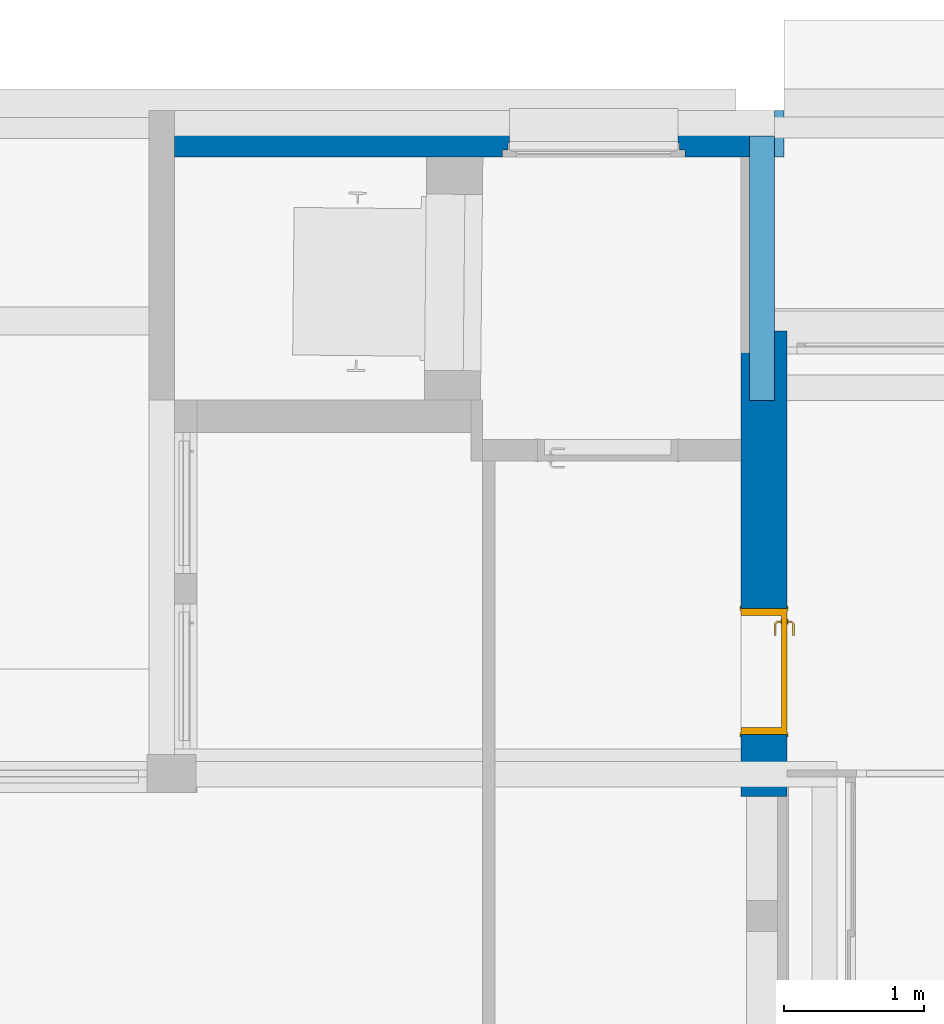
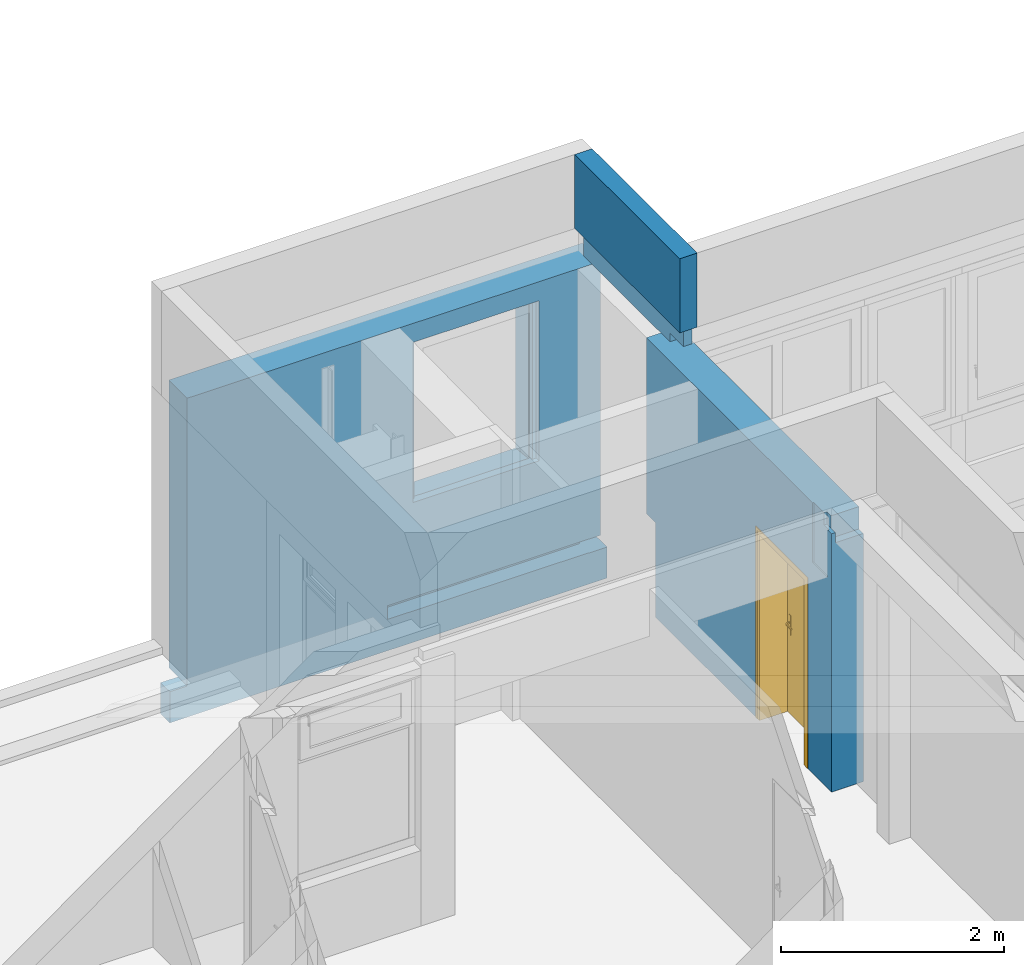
# One storey, part 35 of 49: 3 walls, 1 door, 1 opening.
"""IFC4 building model written with IfcOpenShell, lengths in metres."""

from ifc_helpers import new_model, entity, si_unit, converted_unit, derived_unit, direction, frame, origin, place, context, subcontext, project, spatial, indexed_curve, outline, extrude, polygons, source, transform, mapped, material, material_list, layer, layer_set, constituent, constituent_set, type_object, type_shapes, element, fill, save


model = new_model("IFC4")

# Units and contexts
model_context = context("Model", 3, precision=1e-05, world=origin(), true_north=direction((6.12303176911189e-17, 1.0)))
body_context = subcontext(model_context, "Body", "Model", "MODEL_VIEW")
ifc_project = project(units=[si_unit("LENGTHUNIT", "METRE"), si_unit("AREAUNIT", "SQUARE_METRE"), si_unit("VOLUMEUNIT", "CUBIC_METRE"), converted_unit("PLANEANGLEUNIT", "DEGREE", entity("IfcRatioMeasure", 0.0174532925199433), si_unit("PLANEANGLEUNIT", "RADIAN"), dimensions=[0, 0, 0, 0, 0, 0, 0]), si_unit("MASSUNIT", "GRAM", prefix="KILO"), derived_unit("MASSDENSITYUNIT", [(si_unit("MASSUNIT", "GRAM", prefix="KILO"), 1), (si_unit("LENGTHUNIT", "METRE"), -3)]), derived_unit("MOMENTOFINERTIAUNIT", [(si_unit("LENGTHUNIT", "METRE"), 4)]), si_unit("TIMEUNIT", "SECOND"), si_unit("FREQUENCYUNIT", "HERTZ"), si_unit("THERMODYNAMICTEMPERATUREUNIT", "DEGREE_CELSIUS"), derived_unit("THERMALTRANSMITTANCEUNIT", [(si_unit("MASSUNIT", "GRAM", prefix="KILO"), 1), (si_unit("THERMODYNAMICTEMPERATUREUNIT", "KELVIN"), -1), (si_unit("TIMEUNIT", "SECOND"), -3)]), derived_unit("VOLUMETRICFLOWRATEUNIT", [(si_unit("LENGTHUNIT", "METRE"), 3), (si_unit("TIMEUNIT", "SECOND"), -1)]), si_unit("ELECTRICCURRENTUNIT", "AMPERE"), si_unit("ELECTRICVOLTAGEUNIT", "VOLT"), si_unit("POWERUNIT", "WATT"), si_unit("FORCEUNIT", "NEWTON", prefix="KILO"), si_unit("ILLUMINANCEUNIT", "LUX"), si_unit("LUMINOUSFLUXUNIT", "LUMEN"), si_unit("LUMINOUSINTENSITYUNIT", "CANDELA"), derived_unit("USERDEFINED", [(si_unit("MASSUNIT", "GRAM", prefix="KILO"), -1), (si_unit("LENGTHUNIT", "METRE"), -2), (si_unit("TIMEUNIT", "SECOND"), 3), (si_unit("LUMINOUSFLUXUNIT", "LUMEN"), 1)]), derived_unit("LINEARVELOCITYUNIT", [(si_unit("LENGTHUNIT", "METRE"), 1), (si_unit("TIMEUNIT", "SECOND"), -1)]), si_unit("PRESSUREUNIT", "PASCAL"), derived_unit("USERDEFINED", [(si_unit("LENGTHUNIT", "METRE"), -2), (si_unit("MASSUNIT", "GRAM", prefix="KILO"), 1), (si_unit("TIMEUNIT", "SECOND"), -2)]), derived_unit("LINEARFORCEUNIT", [(si_unit("MASSUNIT", "GRAM", prefix="KILO"), 1), (si_unit("LENGTHUNIT", "METRE"), 1), (si_unit("TIMEUNIT", "SECOND"), -2), (si_unit("LENGTHUNIT", "METRE"), -1)]), derived_unit("PLANARFORCEUNIT", [(si_unit("MASSUNIT", "GRAM", prefix="KILO"), 1), (si_unit("LENGTHUNIT", "METRE"), 1), (si_unit("TIMEUNIT", "SECOND"), -2), (si_unit("LENGTHUNIT", "METRE"), -2)])], contexts=[model_context])

# Site, building, storey
site_placement = place(None, origin())
site = spatial("IfcSite", under=ifc_project, at=site_placement, Name="Default", CompositionType="ELEMENT")
building_placement = place(site_placement, origin())
building = spatial("IfcBuilding", under=site, at=building_placement, Name="HOTEL CONSULAIRE BOULOGNE SUR MER", CompositionType="ELEMENT")
storey_placement = place(building_placement, frame((0.0, 0.0, 6.81974152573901)))
storey = spatial("IfcBuildingStorey", under=building, at=storey_placement, Name="Niveau 2", CompositionType="ELEMENT", Elevation=6.81974152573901)

# Walls
ifc_material_1 = material(Name="Mur par défaut", Category="Divers")
ifc_layer_1 = layer(ifc_material_1, 0.18, Name="Mur par défaut", Category="Divers")
ifc_layer_set_1 = layer_set([ifc_layer_1], Name="Mur de base:Générique - Int.180")
wall_type_1 = type_object("IfcWallType", Name="Mur de base:Générique - Int.180", PredefinedType="NOTDEFINED", material=ifc_layer_set_1)
wall_1_placement = place(storey_placement, frame((11.4909585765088, -10.09032416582, 2.957), z_axis=(0.0, 0.0, 1.0), x_axis=(0.0, -1.0, 0.0)))
element("IfcWall", 1, at=wall_1_placement, inside=storey, type_object=wall_type_1, material=ifc_layer_set_1, Name="Mur de base:Générique - Int.180", ObjectType="Mur de base:Générique - Int.180", PredefinedType="NOTDEFINED", context=body_context, shape_type="Tessellation", body=[
    polygons([(1.88087391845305, -0.0900000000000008, 1.14040452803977), (0.0, -0.0900000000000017, 1.14040452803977), (0.0, -0.0900000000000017, 0.330000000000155), (1.88087391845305, -0.0900000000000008, 0.330000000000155), (0.0, 0.0899999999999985, 1.14040452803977), (1.70087391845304, 0.0899999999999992, 1.14040452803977), (1.88087391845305, 0.0899999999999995, 1.14040452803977), (1.88087391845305, 0.0899999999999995, 0.330000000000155), (1.79087391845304, 0.0899999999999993, 0.330000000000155), (1.79087391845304, 0.0899999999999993, 0.0950000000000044), (1.70087391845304, 0.0899999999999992, 0.0950000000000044), (1.24609962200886, 0.0899999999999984, 0.0950000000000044), (1.24609962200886, 0.0899999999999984, 2.16573425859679e-15), (0.0, 0.0899999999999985, 2.16573425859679e-15), (0.0, 3.80990796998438e-15, 2.16573425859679e-15), (1.24609962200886, 0.0776398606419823, 2.16573425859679e-15), (1.54609962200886, 0.0776398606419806, 2.16573425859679e-15), (1.54609962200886, 2.05329654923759e-15, 2.16573425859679e-15), (0.0, 1.64417371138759e-15, 0.330000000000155), (1.79087391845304, 2.46094093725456e-15, 0.330000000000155), (1.54609962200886, 2.05329654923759e-15, 0.0950000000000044), (1.79087391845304, 2.46094093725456e-15, 0.0950000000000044), (1.54609962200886, 0.0776398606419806, 0.0950000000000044), (1.24609962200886, 0.0776398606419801, 0.0950000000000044)], [[[2, 3, 4, 1]], [[22, 20, 19, 15, 18, 21]], [[7, 8, 9, 10, 11, 12, 13, 14, 5, 6]], [[23, 17, 16, 24]], [[18, 15, 14, 13, 16, 17]], [[20, 9, 8, 4, 3, 19]], [[23, 24, 12, 11, 10, 22, 21]], [[2, 1, 7, 6, 5]], [[19, 3, 2, 5, 14, 15]], [[1, 4, 8, 7]], [[22, 10, 9, 20]], [[18, 17, 23, 21]], [[16, 13, 12, 24]]], closed=True),
])
ifc_layer_2 = layer(ifc_material_1, 0.33, Name="Mur par défaut", Category="Divers")
ifc_layer_set_2 = layer_set([ifc_layer_2], Name="Mur de base:Générique - Ext.330 mm")
wall_type_2 = type_object("IfcWallType", Name="Mur de base:Générique - Ext.330 mm", PredefinedType="NOTDEFINED", material=ifc_layer_set_2)
wall_2_placement = place(storey_placement, frame((7.12898026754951, -10.07532416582, -0.527741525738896)))
element("IfcWall", 2, at=wall_2_placement, inside=storey, type_object=wall_type_2, material=ifc_layer_set_2, Name="Mur de base:Générique - Ext.330 mm", ObjectType="Mur de base:Générique - Ext.330 mm", PredefinedType="NOTDEFINED", context=body_context, shape_type="Tessellation", body=[
    polygons([(-1.68063053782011e-15, -0.165000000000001, -1.08286712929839e-15), (0.148598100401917, -0.165000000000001, -1.08286712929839e-15), (2.94859810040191, -0.165000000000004, -1.08286712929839e-15), (4.33197830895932, -0.165000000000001, -1.08286712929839e-15), (4.51949760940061, -0.165000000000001, -1.08286712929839e-15), (4.51949760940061, -0.165000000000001, 0.339741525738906), (4.33197830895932, -0.165000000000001, 0.339741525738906), (4.33197830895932, -0.165000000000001, 0.342741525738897), (2.37563005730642, -0.165000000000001, 0.342741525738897), (2.25062426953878, -0.165000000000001, 0.342741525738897), (2.25062426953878, -0.165000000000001, 0.492741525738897), (4.21197830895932, -0.165000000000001, 0.492741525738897), (4.45197830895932, -0.165000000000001, 0.492741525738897), (4.45197830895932, -0.165000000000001, 3.48474152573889), (4.21197830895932, -0.165000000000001, 3.48474152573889), (2.37563005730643, -0.165000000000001, 3.48474152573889), (1.97561153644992, -0.165000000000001, 3.48474152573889), (0.180000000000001, -0.165000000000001, 3.48474152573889), (0.180000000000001, -0.165000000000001, 0.339741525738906), (-1.68063053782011e-15, -0.165000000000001, 0.339741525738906), (3.81521723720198, -0.165000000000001, 1.52774152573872), (2.51521723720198, -0.165000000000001, 1.52774152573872), (2.51521723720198, -0.165000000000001, 3.27774152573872), (3.81521723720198, -0.165000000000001, 3.27774152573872), (4.17765803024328, 0.164999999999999, 0.339741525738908), (0.179999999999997, 0.164999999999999, 0.339741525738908), (0.180000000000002, 0.164999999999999, 3.48474152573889), (4.45197830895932, 0.164999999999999, 3.48474152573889), (4.45197830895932, 0.164999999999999, 0.492741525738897), (4.33197830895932, 0.164999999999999, 0.492741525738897), (4.33197830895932, 0.164999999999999, 0.339741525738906), (4.51949760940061, 0.164999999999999, 0.339741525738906), (4.51949760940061, 0.164999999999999, -1.08286712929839e-15), (4.17765803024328, 0.164999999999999, -1.08286712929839e-15), (2.56521723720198, 0.164999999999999, 3.22774152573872), (2.56521723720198, 0.164999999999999, 1.48646546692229), (3.76521723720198, 0.164999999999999, 1.48646546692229), (3.76521723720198, 0.164999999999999, 3.22774152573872), (-1.25389497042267e-15, 0.000691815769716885, -1.08286712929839e-15), (4.17765803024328, 0.000691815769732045, -1.08286712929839e-15), (-1.25389497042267e-15, 0.000691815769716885, 0.339741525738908), (0.18, 0.000691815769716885, 0.339741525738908), (4.17765803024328, 0.000691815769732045, 0.339741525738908), (4.33197830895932, 0.120691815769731, 0.339741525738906), (4.33197830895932, -0.0293081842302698, 0.339741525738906), (2.56521723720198, -0.0850000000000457, 1.52774152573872), (2.56521723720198, -0.0850000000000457, 1.51274152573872), (2.56521723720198, -0.0649999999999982, 3.22774152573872), (2.56521723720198, -0.0649999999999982, 1.52774152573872), (3.76521723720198, -0.0850000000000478, 1.51274152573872), (3.76521723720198, -0.0850000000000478, 1.52774152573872), (3.76521723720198, -0.0649999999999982, 1.52774152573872), (3.76521723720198, -0.0649999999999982, 3.22774152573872), (2.55521723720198, -0.0649999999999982, 1.52774152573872), (2.55521723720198, -0.115000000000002, 1.52774152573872), (2.51521723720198, -0.115000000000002, 1.52774152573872), (3.81521723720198, -0.115000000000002, 1.52774152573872), (3.77521723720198, -0.115000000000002, 1.52774152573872), (3.77521723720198, -0.0649999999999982, 1.52774152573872), (2.51521723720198, -0.115, 3.27774152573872), (2.55521723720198, -0.115, 3.23774152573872), (3.77521723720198, -0.115, 3.23774152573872), (3.81521723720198, -0.115, 3.27774152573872), (2.55521723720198, -0.064999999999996, 3.23774152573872), (3.77521723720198, -0.0649999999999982, 3.23774152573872), (4.33197830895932, 0.120691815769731, 0.492741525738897), (4.33197830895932, 0.0, 0.492741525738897), (4.33197830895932, 0.0, 0.342741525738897), (4.45197830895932, -0.0293081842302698, 0.492741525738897), (4.45197830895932, 0.120691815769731, 0.492741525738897), (2.25221210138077, 0.0, 0.492741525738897), (2.25221210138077, 0.0, 0.342741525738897)], [[[1, 2, 3, 4, 5, 6, 7, 8, 9, 10, 11, 12, 13, 14, 15, 16, 17, 18, 19, 20], [22, 23, 24, 21]], [[61, 62, 58, 57, 63, 60, 56, 55]], [[48, 53, 52, 59, 65, 64, 54, 49]], [[71, 72, 68, 67]], [[32, 33, 34, 25, 26, 27, 28, 29, 30, 31], [37, 38, 35, 36]], [[42, 43, 40, 39, 41]], [[50, 47, 46, 51]], [[2, 1, 39, 40, 34, 33, 5, 4, 3]], [[26, 25, 43, 42]], [[53, 48, 35, 38]], [[63, 24, 23, 60]], [[62, 61, 64, 65]], [[71, 67, 66, 30, 29, 70, 69, 13, 12, 11]], [[15, 14, 28, 27, 18, 17, 16]], [[19, 42, 41, 20]], [[31, 44, 45, 7, 6, 32]], [[46, 49, 54, 55, 56, 22, 21, 57, 58, 59, 52, 51]], [[68, 72, 10, 9, 8]], [[1, 20, 41, 39]], [[42, 19, 18, 27, 26]], [[25, 34, 40, 43]], [[50, 51, 52, 53, 38, 37]], [[21, 24, 63, 57]], [[59, 58, 62, 65]], [[6, 5, 33, 32]], [[49, 46, 47, 36, 35, 48]], [[23, 22, 56, 60]], [[64, 61, 55, 54]], [[7, 45, 44, 31, 30, 66, 67, 68, 8]], [[14, 13, 69, 70, 29, 28]], [[50, 37, 36, 47]], [[11, 10, 72, 71]]], closed=True),
])

# Wall, opening, door
ifc_layer_3 = layer(ifc_material_1, 0.33, Name="Mur par défaut", Category="Divers")
ifc_layer_set_3 = layer_set([ifc_layer_3], Name="Mur de base:Générique - Int.330 mm")
wall_type_3 = type_object("IfcWallType", Name="Mur de base:Générique - Int.330 mm", PredefinedType="NOTDEFINED", material=ifc_layer_set_3)
wall_3_placement = place(storey_placement, frame((11.5059585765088, -11.4764237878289, 0.0), z_axis=(0.0, 0.0, 1.0), x_axis=(0.0, -1.0, 0.0)))
wall_3 = element("IfcWall", 3, at=wall_3_placement, inside=storey, type_object=wall_type_3, material=ifc_layer_set_3, Name="Mur de base:Générique - Int.330 mm", ObjectType="Mur de base:Générique - Int.330 mm", PredefinedType="NOTDEFINED", context=body_context, shape_type="Tessellation", body=[
    polygons([(3.31446374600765, 0.164999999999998, 0.0), (3.31446374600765, 0.0949999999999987, 0.0), (3.31446374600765, -0.165000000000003, 0.0), (2.87535353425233, -0.165000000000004, 0.0), (2.87535353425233, 0.164999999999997, 0.0), (3.31446374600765, -0.165000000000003, 2.822), (3.24666314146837, -0.165000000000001, 2.822), (3.24666314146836, -0.165000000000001, 2.307), (2.97666314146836, -0.165000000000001, 2.307), (2.97666314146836, -0.165000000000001, 2.957), (0.925353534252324, -0.165000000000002, 2.957), (0.775353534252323, -0.165000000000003, 2.957), (0.0, -0.165000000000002, 2.957), (0.0, -0.165000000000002, 1.03571275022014), (0.159999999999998, -0.165000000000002, 1.03571275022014), (0.159999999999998, -0.165000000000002, 0.0), (1.97535353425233, -0.165000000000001, 0.0), (1.97535353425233, -0.165000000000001, 2.075), (2.87535353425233, -0.165000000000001, 2.075), (2.87535353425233, 0.164999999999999, 2.075), (1.97535353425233, 0.165, 2.075), (1.97535353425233, 0.165, 0.0), (0.16, 0.164999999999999, 0.0), (0.16, 0.164999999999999, 1.03571275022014), (0.0, 0.164999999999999, 1.03571275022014), (0.0, 0.164999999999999, 2.712), (0.160000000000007, 0.164999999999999, 2.712), (0.160000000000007, 0.164999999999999, 2.957), (3.12500000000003, 0.165, 2.957), (3.17500000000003, 0.165, 2.957), (3.23437458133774, 0.165, 2.957), (3.23437458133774, 0.165, 2.712), (3.31446374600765, 0.164999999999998, 2.712), (3.31446374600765, 0.0949999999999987, 2.712), (3.31446374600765, -0.124049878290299, 2.712), (3.31446374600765, -0.124049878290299, 2.822), (3.23437458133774, -0.124049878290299, 2.957), (0.160000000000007, 0.0626398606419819, 2.957), (0.0, 0.0626398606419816, 2.957), (2.97666314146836, -0.152690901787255, 2.957), (3.1614871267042, -0.152690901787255, 2.957), (3.1614871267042, -0.124049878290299, 2.957), (0.0, 0.0626398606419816, 2.712), (0.0, 0.0749999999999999, 1.03571275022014), (0.16, 0.0750000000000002, 1.03571275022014), (3.23437458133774, -0.124049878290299, 2.712), (3.23437458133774, -0.124049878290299, 2.822), (2.97666314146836, -0.152690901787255, 2.307), (3.24666314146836, -0.152690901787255, 2.307), (3.24666314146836, -0.152690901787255, 2.822), (3.1614871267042, -0.152690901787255, 2.822), (0.160000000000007, 0.0626398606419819, 2.712), (3.1614871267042, -0.124049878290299, 2.822)], [[[3, 4, 5, 1, 2]], [[17, 16, 23, 22]], [[20, 19, 18, 21]], [[45, 15, 14, 44, 25, 24]], [[15, 16, 17, 18, 19, 4, 3, 6, 7, 8, 9, 10, 11, 12, 13, 14]], [[51, 41, 40, 48, 49, 50]], [[53, 47, 37, 42]], [[33, 1, 5, 20, 21, 22, 23, 24, 25, 26, 27, 28, 29, 30, 31, 32]], [[35, 46, 47, 36]], [[39, 38, 52, 43]], [[3, 2, 1, 33, 34, 35, 36, 6]], [[22, 21, 18, 17]], [[47, 46, 32, 31, 37]], [[40, 10, 9, 48]], [[51, 53, 42, 41]], [[42, 37, 31, 30, 29, 28, 38, 39, 13, 12, 11, 10, 40, 41]], [[33, 32, 46, 35, 34]], [[48, 9, 8, 49]], [[43, 52, 27, 26]], [[50, 7, 6, 36, 47, 53, 51]], [[5, 4, 19, 20]], [[14, 13, 39, 43, 26, 25, 44]], [[45, 24, 23, 16, 15]], [[49, 8, 7, 50]], [[38, 28, 27, 52]]], closed=True),
])
opening_placement = place(wall_3_placement, frame((1.97535353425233, -0.165, 0.0)))
opening = element("IfcOpeningElement", 4, at=opening_placement, cuts=wall_3, Name="Int. Simple:PP (0.83m x 2.04m):1", ObjectType="Opening", PredefinedType="OPENING", context=body_context, shape_type="SweptSolid", body=[
    extrude(outline(indexed_curve([(0.0, 0.9), (0.0, 0.0), (2.075, 0.0), (2.075, 0.9), (0.0, 0.9)], self_intersect=False)), frame((0.0, 0.0, 0.0), z_axis=(0.0, 1.0, 0.0), x_axis=(0.0, 0.0, 1.0)), (0.0, 0.0, 1.0), 0.33),
])
ifc_material_2 = material(Name="Finition Peinture - Blanc satiné", Category="Peinture")
ifc_constituent_1 = constituent(ifc_material_2, Name="Finition Peinture - Blanc satiné", Category="Matériaux")
ifc_material_3 = material(Name="Bois - Panneau de porte", Category="Bois")
ifc_constituent_2 = constituent(ifc_material_3, Name="Bois - Panneau de porte", Category="Matériaux")
ifc_material_4 = material(Name="Bois - Cadre de porte", Category="Bois")
ifc_constituent_3 = constituent(ifc_material_4, Name="Bois - Cadre de porte", Category="Matériaux")
ifc_constituent_set = constituent_set(constituents=[ifc_constituent_1, ifc_constituent_2, ifc_constituent_3], Name="MaterialConstituentSet")
ifc_material_list = material_list([ifc_material_3, ifc_material_2, ifc_material_4, ifc_material_4])
door_type = type_object("IfcDoorType", Name="Int. Simple:PP (0.83m x 2.04m)", OperationType="NOTDEFINED", PredefinedType="DOOR", material=ifc_material_list)
shared_shape = source(origin(), body_context, "Body", "Tessellation", [
    polygons([(0.895000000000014, -0.00500000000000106, 0.870000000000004), (0.895000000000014, -0.00500000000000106, 1.08), (0.885352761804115, -0.00500000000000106, 1.08399601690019), (0.875000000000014, -0.00500000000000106, 1.08535898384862), (0.864647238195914, -0.00500000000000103, 1.08399601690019), (0.855000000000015, -0.00500000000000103, 1.08), (0.855000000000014, -0.00500000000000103, 0.870000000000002), (0.864647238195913, -0.00500000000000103, 0.866003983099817), (0.875000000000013, -0.00500000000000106, 0.86464101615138), (0.885352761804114, -0.00500000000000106, 0.866003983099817), (0.895000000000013, -1.08286712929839e-15, 0.870000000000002), (0.885352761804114, -1.08286712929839e-15, 0.866003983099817), (0.875000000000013, -1.08286712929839e-15, 0.86464101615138), (0.864647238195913, -1.04902753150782e-15, 0.866003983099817), (0.855000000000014, -1.04902753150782e-15, 0.870000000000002), (0.855000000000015, -1.04902753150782e-15, 1.08), (0.864647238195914, -1.04902753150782e-15, 1.08399601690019), (0.875000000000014, -1.08286712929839e-15, 1.08535898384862), (0.885352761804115, -1.08286712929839e-15, 1.08399601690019), (0.895000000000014, -1.08286712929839e-15, 1.08)], [[[1, 2, 3, 4, 5, 6, 7, 8, 9, 10]], [[20, 11, 12, 13, 14, 15, 16, 17, 18, 19]], [[10, 12, 11, 1]], [[9, 13, 12, 10]], [[8, 14, 13, 9]], [[8, 7, 15, 14]], [[15, 7, 6, 16]], [[5, 17, 16, 6]], [[4, 18, 17, 5]], [[3, 19, 18, 4]], [[3, 2, 20, 19]], [[11, 20, 2, 1]]], closed=True),
    polygons([(0.855000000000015, 0.0399999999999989, 1.08), (0.855000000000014, 0.0399999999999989, 0.870000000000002), (0.864647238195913, 0.0399999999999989, 0.866003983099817), (0.875000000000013, 0.0399999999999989, 0.86464101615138), (0.885352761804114, 0.0399999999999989, 0.866003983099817), (0.895000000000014, 0.0399999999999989, 0.870000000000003), (0.895000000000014, 0.0399999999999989, 1.08), (0.885352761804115, 0.0399999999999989, 1.08399601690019), (0.875000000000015, 0.0399999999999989, 1.08535898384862), (0.864647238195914, 0.0399999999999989, 1.08399601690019), (0.855000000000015, 0.0449999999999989, 1.08), (0.864647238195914, 0.0449999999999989, 1.08399601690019), (0.875000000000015, 0.0449999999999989, 1.08535898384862), (0.885352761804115, 0.0449999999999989, 1.08399601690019), (0.895000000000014, 0.0449999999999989, 1.08), (0.895000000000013, 0.0449999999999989, 0.870000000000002), (0.885352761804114, 0.0449999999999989, 0.866003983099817), (0.875000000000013, 0.0449999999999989, 0.86464101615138), (0.864647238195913, 0.0449999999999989, 0.866003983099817), (0.855000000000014, 0.0449999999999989, 0.870000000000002)], [[[6, 7, 8, 9, 10, 1, 2, 3, 4, 5]], [[13, 14, 15, 16, 17, 18, 19, 20, 11, 12]], [[10, 12, 11, 1]], [[9, 13, 12, 10]], [[8, 14, 13, 9]], [[8, 7, 15, 14]], [[16, 15, 7, 6]], [[5, 17, 16, 6]], [[4, 18, 17, 5]], [[3, 19, 18, 4]], [[3, 2, 20, 19]], [[20, 2, 1, 11]]], closed=True),
    polygons([(0.881000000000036, -0.00500000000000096, 1.00699999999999), (0.881000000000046, -0.00500000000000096, 0.992999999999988), (0.877025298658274, -0.00500000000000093, 0.99221955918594), (0.872974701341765, -0.00500000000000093, 0.992219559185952), (0.868999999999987, -0.00500000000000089, 0.993000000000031), (0.868999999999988, -0.00500000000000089, 1.007), (0.872974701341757, -0.00500000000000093, 1.00778044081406), (0.877025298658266, -0.00500000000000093, 1.00778044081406), (0.868999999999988, -0.0276803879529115, 1.007), (0.872974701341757, -0.0293267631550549, 1.00778044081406), (0.877025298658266, -0.0310045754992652, 1.00778044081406), (0.881000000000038, -0.0326509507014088, 1.007), (0.868999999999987, -0.0276803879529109, 0.993000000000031), (0.881000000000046, -0.0326509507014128, 0.992999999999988), (0.877025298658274, -0.0310045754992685, 0.99221955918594), (0.872974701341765, -0.0293267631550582, 0.992219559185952), (0.85765222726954, -0.0390281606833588, 1.007), (0.859298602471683, -0.0430028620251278, 1.00778044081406), (0.860976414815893, -0.0470534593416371, 1.00778044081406), (0.862622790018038, -0.051028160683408, 1.007), (0.857652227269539, -0.0390281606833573, 0.993000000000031), (0.862622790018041, -0.0510281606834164, 0.992999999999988), (0.860976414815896, -0.047053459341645, 0.99221955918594), (0.859298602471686, -0.0430028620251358, 0.992219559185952), (0.774981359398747, -0.0510281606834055, 1.007), (0.774981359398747, -0.0470534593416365, 1.00778044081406), (0.774981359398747, -0.0430028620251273, 1.00778044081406), (0.774981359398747, -0.0390281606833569, 1.00699999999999), (0.774981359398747, -0.0390281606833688, 0.993000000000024), (0.774981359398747, -0.0430028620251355, 0.992219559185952), (0.774981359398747, -0.0470534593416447, 0.99221955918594), (0.774981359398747, -0.0510281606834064, 0.992999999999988), (0.822692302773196, -0.051028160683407, 1.007), (0.81713998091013, -0.045028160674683, 1.0078786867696), (0.816316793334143, -0.039028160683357, 1.007), (0.822692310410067, -0.0510281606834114, 0.992999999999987), (0.817139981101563, -0.0450281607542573, 0.992121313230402), (0.816316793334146, -0.0390281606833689, 0.993000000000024)], [[[7, 8, 1, 2, 3, 4, 5, 6]], [[17, 21, 38, 29, 28, 35]], [[1, 8, 11, 12]], [[8, 7, 10, 18, 19, 11]], [[7, 6, 9, 10]], [[13, 9, 6, 5]], [[25, 26, 27, 28, 29, 30, 31, 32]], [[4, 16, 13, 5]], [[4, 3, 15, 23, 24, 16]], [[2, 14, 15, 3]], [[12, 14, 2, 1]], [[12, 11, 19, 20]], [[10, 9, 17, 18]], [[21, 17, 9, 13]], [[13, 16, 24, 21]], [[15, 14, 22, 23]], [[20, 22, 14, 12]], [[34, 26, 33]], [[33, 26, 25]], [[33, 20, 19]], [[18, 35, 34]], [[35, 18, 17]], [[28, 27, 35]], [[34, 27, 26]], [[34, 35, 27]], [[34, 33, 19]], [[18, 34, 19]], [[37, 30, 38]], [[31, 37, 36]], [[24, 38, 21]], [[30, 29, 38]], [[31, 36, 32]], [[36, 23, 22]], [[37, 23, 36]], [[37, 24, 23]], [[37, 38, 24]], [[30, 37, 31]], [[22, 20, 33, 25, 32, 36]]], closed=True),
    polygons([(0.868999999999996, 0.0449999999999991, 0.993000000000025), (0.872974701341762, 0.0449999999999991, 0.992219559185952), (0.877025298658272, 0.0449999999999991, 0.99221955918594), (0.881000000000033, 0.0449999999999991, 0.992999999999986), (0.881000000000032, 0.0449999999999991, 1.007), (0.877025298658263, 0.0449999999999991, 1.00778044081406), (0.872974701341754, 0.0449999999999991, 1.00778044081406), (0.868999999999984, 0.0449999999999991, 1.007), (0.868999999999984, 0.067485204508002, 1.007), (0.868999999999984, 0.0674852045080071, 0.993000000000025), (0.881000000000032, 0.0724557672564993, 1.007), (0.877025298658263, 0.070809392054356, 1.00778044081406), (0.872974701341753, 0.0691315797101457, 1.00778044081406), (0.881000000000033, 0.0724557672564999, 0.992999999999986), (0.872974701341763, 0.0691315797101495, 0.992219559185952), (0.877025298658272, 0.0708093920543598, 0.99221955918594), (0.857514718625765, 0.0789704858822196, 1.007), (0.857514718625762, 0.0789704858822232, 0.993000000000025), (0.862485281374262, 0.0909704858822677, 1.007), (0.860838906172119, 0.0869957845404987, 1.00778044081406), (0.859161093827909, 0.0829451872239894, 1.00778044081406), (0.862485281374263, 0.0909704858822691, 0.992999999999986), (0.859161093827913, 0.0829451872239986, 0.992219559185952), (0.860838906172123, 0.0869957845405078, 0.99221955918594), (0.77495421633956, 0.0789704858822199, 0.993000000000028), (0.77495421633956, 0.0789704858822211, 1.007), (0.77495421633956, 0.0829451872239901, 1.00778044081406), (0.77495421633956, 0.0869957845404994, 1.00778044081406), (0.77495421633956, 0.0909704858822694, 1.007), (0.77495421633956, 0.0909704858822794, 0.992999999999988), (0.77495421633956, 0.086995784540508, 0.99221955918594), (0.77495421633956, 0.0829451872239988, 0.992219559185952), (0.822554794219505, 0.0909704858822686, 1.007), (0.817057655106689, 0.0849704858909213, 1.0078786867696), (0.816234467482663, 0.0789704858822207, 1.007), (0.822554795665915, 0.0909704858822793, 0.992999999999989), (0.817057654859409, 0.0849704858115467, 0.992121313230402), (0.816234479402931, 0.0789704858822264, 0.993000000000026)], [[[2, 3, 4, 5, 6, 7, 8, 1]], [[18, 17, 35, 26, 25, 38]], [[9, 10, 1, 8]], [[27, 28, 29, 30, 31, 32, 25, 26]], [[7, 13, 9, 8]], [[7, 6, 12, 20, 21, 13]], [[5, 11, 12, 6]], [[11, 5, 4, 14]], [[4, 3, 16, 14]], [[3, 2, 15, 23, 24, 16]], [[2, 1, 10, 15]], [[17, 18, 10, 9]], [[9, 13, 21, 17]], [[11, 19, 20, 12]], [[22, 19, 11, 14]], [[14, 16, 24, 22]], [[15, 10, 18, 23]], [[34, 27, 35]], [[28, 34, 33]], [[21, 35, 17]], [[27, 26, 35]], [[28, 33, 29]], [[33, 20, 19]], [[34, 20, 33]], [[34, 21, 20]], [[34, 35, 21]], [[27, 34, 28]], [[19, 22, 36, 30, 29, 33]], [[37, 31, 36]], [[36, 31, 30]], [[36, 22, 24]], [[23, 38, 37]], [[38, 23, 18]], [[25, 32, 38]], [[37, 32, 31]], [[37, 38, 32]], [[37, 36, 24]], [[23, 37, 24]]], closed=True),
    polygons([(0.935000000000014, 0.04, 2.04), (0.935000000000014, 0.04, 0.0), (0.105000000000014, 0.04, 0.0), (0.105000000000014, 0.04, 2.04), (0.935000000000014, 3.38395977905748e-17, 2.04), (0.105000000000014, 3.38395977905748e-17, 2.04), (0.105000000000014, 3.38395977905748e-17, 0.0), (0.935000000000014, 3.38395977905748e-17, 0.0)], [[[3, 4, 1, 2]], [[5, 6, 7, 8]], [[5, 1, 4, 6]], [[6, 4, 3, 7]], [[8, 7, 3, 2]], [[8, 2, 1, 5]]], closed=True),
    polygons([(0.970000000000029, 0.0, 0.0), (0.935000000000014, 0.0, 0.0), (0.935000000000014, 0.040000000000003, 0.0), (0.920000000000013, 0.040000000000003, 0.0), (0.920000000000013, 0.330000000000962, 0.0), (0.970000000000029, 0.330000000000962, 0.0), (0.970000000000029, 0.330000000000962, 2.07500000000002), (0.970000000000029, 0.0, 2.07500000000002), (0.920000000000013, 0.330000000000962, 2.025), (0.120000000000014, 0.330000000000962, 2.025), (0.120000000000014, 0.330000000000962, 6.02669015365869e-24), (0.0699999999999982, 0.330000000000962, 9.23443718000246e-25), (0.0699999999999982, 0.330000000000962, 2.07500000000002), (0.920000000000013, 0.040000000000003, 2.025), (0.935000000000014, 0.040000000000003, 2.04), (0.105000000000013, 0.040000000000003, 2.04), (0.105000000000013, 0.040000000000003, 1.51399294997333e-24), (0.120000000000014, 0.040000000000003, 1.99209609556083e-25), (0.120000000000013, 0.040000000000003, 2.025), (0.935000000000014, 0.0, 2.04), (0.0699999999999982, 0.0, 2.07500000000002), (0.0699999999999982, 0.0, 1.81925185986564e-24), (0.105000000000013, 0.0, 3.40121094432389e-24), (0.105000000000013, 0.0, 2.04)], [[[5, 6, 1, 2, 3, 4]], [[17, 23, 22, 12, 11, 18]], [[19, 10, 9, 14]], [[24, 16, 15, 20]], [[8, 1, 6, 7]], [[18, 11, 10, 19]], [[17, 16, 24, 23]], [[9, 10, 11, 12, 13, 7, 6, 5]], [[14, 9, 5, 4]], [[15, 3, 2, 20]], [[22, 21, 13, 12]], [[19, 14, 4, 3, 15, 16, 17, 18]], [[24, 20, 2, 1, 8, 21, 22, 23]], [[13, 21, 8, 7]]], closed=True),
    polygons([(0.955000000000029, 0.330000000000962, 1.35358391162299e-16), (0.955000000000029, 0.335000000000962, 1.35358391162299e-16), (0.985000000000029, 0.335000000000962, 1.35358391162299e-16), (0.985000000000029, 0.330000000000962, 1.35358391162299e-16), (0.985000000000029, 0.330000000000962, 2.09000000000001), (0.0550000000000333, 0.330000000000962, 2.09000000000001), (0.0550000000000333, 0.330000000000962, -5.44393448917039e-24), (0.0850000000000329, 0.330000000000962, 5.09144898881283e-24), (0.0850000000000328, 0.330000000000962, 2.06000000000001), (0.955000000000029, 0.330000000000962, 2.06000000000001), (0.985000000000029, 0.335000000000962, 2.09000000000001), (0.955000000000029, 0.335000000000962, 2.06000000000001), (0.0850000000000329, 0.335000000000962, 2.06000000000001), (0.0850000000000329, 0.335000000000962, -1.89153776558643e-24), (0.055000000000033, 0.335000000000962, 5.03766794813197e-24), (0.0550000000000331, 0.335000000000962, 2.09000000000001)], [[[2, 3, 4, 1]], [[7, 15, 14, 8]], [[9, 13, 12, 10]], [[9, 10, 1, 4, 5, 6, 7, 8]], [[11, 5, 4, 3]], [[8, 14, 13, 9]], [[12, 13, 14, 15, 16, 11, 3, 2]], [[10, 12, 2, 1]], [[15, 7, 6, 16]], [[16, 6, 5, 11]]], closed=True),
    polygons([(0.955000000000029, -0.00500000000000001, 1.35358391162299e-16), (0.955000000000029, 0.0, 1.35358391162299e-16), (0.985000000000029, 0.0, 1.35358391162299e-16), (0.985000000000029, -0.00500000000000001, 1.35358391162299e-16), (0.0850000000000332, -0.00500000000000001, -1.35358391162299e-16), (0.0550000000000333, -0.00500000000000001, -1.35358391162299e-16), (0.055000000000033, 0.0, -1.35358391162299e-16), (0.0850000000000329, 0.0, -1.35358391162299e-16), (0.985000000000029, -0.00500000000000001, 2.09000000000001), (0.0550000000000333, -0.00500000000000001, 2.09000000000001), (0.0850000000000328, -0.00500000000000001, 2.06000000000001), (0.955000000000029, -0.00500000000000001, 2.06000000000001), (0.985000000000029, 0.0, 2.09000000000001), (0.955000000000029, 0.0, 2.06000000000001), (0.0850000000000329, 0.0, 2.06000000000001), (0.0550000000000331, 0.0, 2.09000000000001)], [[[2, 3, 4, 1]], [[6, 7, 8, 5]], [[15, 14, 12, 11]], [[11, 12, 1, 4, 9, 10, 6, 5]], [[13, 9, 4, 3]], [[5, 8, 15, 11]], [[14, 15, 8, 7, 16, 13, 3, 2]], [[12, 14, 2, 1]], [[7, 6, 10, 16]], [[16, 10, 9, 13]]], closed=True),
])
type_shapes(door_type, [shared_shape])
door_placement = place(opening_placement, frame((0.970000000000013, 0.329999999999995, 0.0), z_axis=(0.0, 0.0, 1.0), x_axis=(-1.0, 0.0, 0.0)))
door = element("IfcDoor", 5, at=door_placement, inside=storey, type_object=door_type, material=ifc_constituent_set, Name="Int. Simple:PP (0.83m x 2.04m)", ObjectType="Int. Simple:PP (0.83m x 2.04m)", OperationType="NOTDEFINED", OverallHeight=2.075, OverallWidth=0.899999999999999, PredefinedType="DOOR", context=body_context, shape_type="MappedRepresentation", body=[
    mapped(shared_shape, transform((0.0, 0.0, 0.0), scale=1.0)),
])
fill(opening, door)

save(model, "model.ifc")
